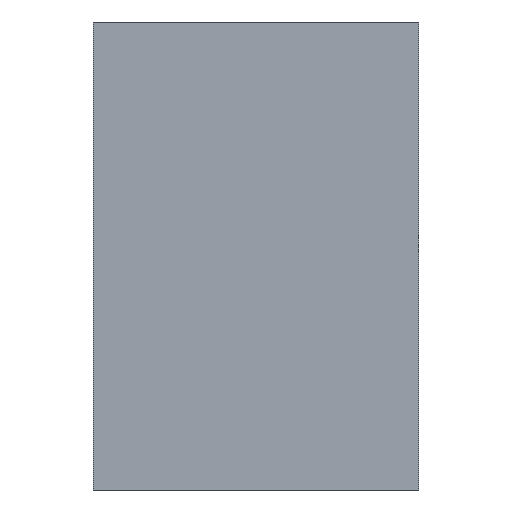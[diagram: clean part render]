
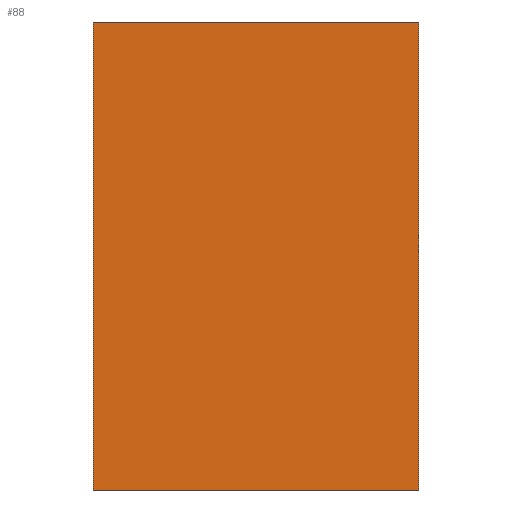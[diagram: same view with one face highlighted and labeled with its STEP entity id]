
A CAD part, front view. The second image highlights one B-rep face of the part: STEP entity #88.
In plain terms, the highlighted planar face has unit normal (0, -1, 0).
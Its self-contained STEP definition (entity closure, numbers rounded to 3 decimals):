
#2 = CARTESIAN_POINT ( 'NONE',  ( 171., 0., 246. ) ) ;
#3 = FACE_OUTER_BOUND ( 'NONE', #106, .T. ) ;
#14 = CARTESIAN_POINT ( 'NONE',  ( 171., 0., -246. ) ) ;
#18 = VERTEX_POINT ( 'NONE', #2 ) ;
#19 = EDGE_CURVE ( 'NONE', #73, #103, #104, .T. ) ;
#26 = VECTOR ( 'NONE', #90, 1000. ) ;
#28 = CARTESIAN_POINT ( 'NONE',  ( -171., 0., -246. ) ) ;
#30 = CARTESIAN_POINT ( 'NONE',  ( 0., 0., 0. ) ) ;
#32 = DIRECTION ( 'NONE',  ( 0., -1., 0. ) ) ;
#48 = CARTESIAN_POINT ( 'NONE',  ( -171., 0., 246. ) ) ;
#50 = CARTESIAN_POINT ( 'NONE',  ( -171., 0., -246. ) ) ;
#54 = VECTOR ( 'NONE', #193, 1000. ) ;
#56 = VECTOR ( 'NONE', #65, 1000. ) ;
#65 = DIRECTION ( 'NONE',  ( -1., 0., 0. ) ) ;
#67 = ORIENTED_EDGE ( 'NONE', *, *, #99, .F. ) ;
#73 = VERTEX_POINT ( 'NONE', #14 ) ;
#78 = LINE ( 'NONE', #140, #26 ) ;
#88 = ADVANCED_FACE ( 'NONE', ( #3 ), #202, .T. ) ;
#90 = DIRECTION ( 'NONE',  ( 0., 0., -1. ) ) ;
#95 = CARTESIAN_POINT ( 'NONE',  ( -171., 0., 246. ) ) ;
#99 = EDGE_CURVE ( 'NONE', #200, #18, #199, .T. ) ;
#102 = AXIS2_PLACEMENT_3D ( 'NONE', #30, #32, #138 ) ;
#103 = VERTEX_POINT ( 'NONE', #28 ) ;
#104 = LINE ( 'NONE', #50, #56 ) ;
#106 = EDGE_LOOP ( 'NONE', ( #176, #67, #179, #172 ) ) ;
#135 = DIRECTION ( 'NONE',  ( 1., 0., 0. ) ) ;
#138 = DIRECTION ( 'NONE',  ( 0., 0., -1. ) ) ;
#140 = CARTESIAN_POINT ( 'NONE',  ( 171., 0., 246. ) ) ;
#144 = CARTESIAN_POINT ( 'NONE',  ( -171., 0., 246. ) ) ;
#155 = VECTOR ( 'NONE', #135, 1000. ) ;
#172 = ORIENTED_EDGE ( 'NONE', *, *, #19, .F. ) ;
#176 = ORIENTED_EDGE ( 'NONE', *, *, #178, .F. ) ;
#178 = EDGE_CURVE ( 'NONE', #18, #73, #78, .T. ) ;
#179 = ORIENTED_EDGE ( 'NONE', *, *, #197, .F. ) ;
#193 = DIRECTION ( 'NONE',  ( 0., 0., 1. ) ) ;
#197 = EDGE_CURVE ( 'NONE', #103, #200, #198, .T. ) ;
#198 = LINE ( 'NONE', #95, #54 ) ;
#199 = LINE ( 'NONE', #48, #155 ) ;
#200 = VERTEX_POINT ( 'NONE', #144 ) ;
#202 = PLANE ( 'NONE',  #102 ) ;
